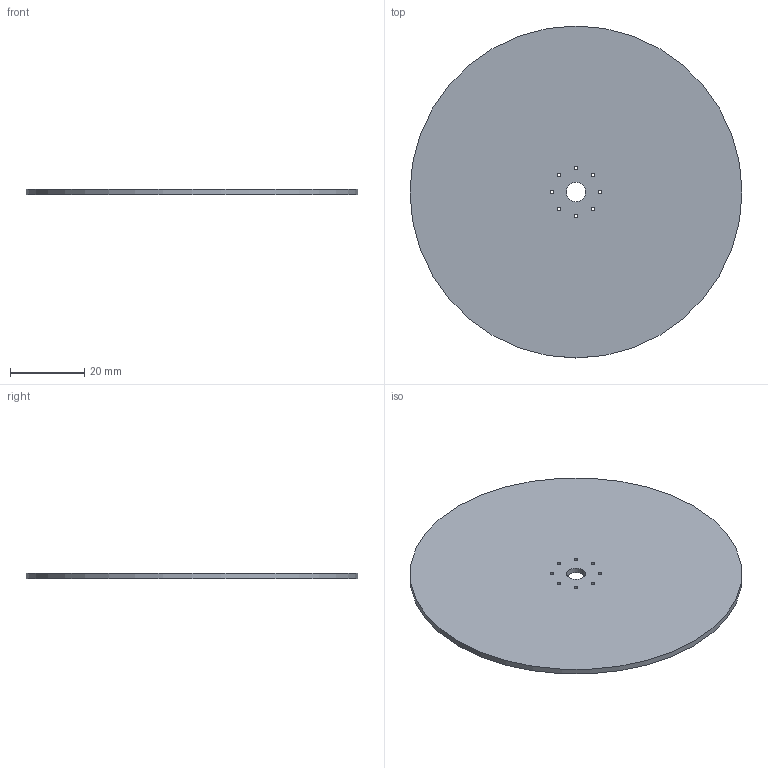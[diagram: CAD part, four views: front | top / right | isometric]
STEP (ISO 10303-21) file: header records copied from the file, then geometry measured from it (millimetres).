
FILE_DESCRIPTION(('KiCad electronic assembly'),'2;1');
FILE_NAME('Slip Ring Rotating Contacts PCB V2 STEP.step', '2026-02-23T04:16:57',('Pcbnew'),('Kicad'), 'Open CASCADE STEP processor 7.9','KiCad to STEP converter','Unknown' );
FILE_SCHEMA(('AUTOMOTIVE_DESIGN { 1 0 10303 214 1 1 1 1 }'));
Length unit declared in the file: millimetre
Products named in the file (2): Slip Ring Rotating Contacts PCB V2 STEP 1; Slip Ring Rotating Contacts V2_PCB
Assembly tree (1 placements, depth 2):
  Slip Ring Rotating Contacts PCB V2 STEP 1
    Slip Ring Rotating Contacts V2_PCB
Bounding box: 89.5 x 89.5 x 1.51 mm (x, y, z)
Volume: 9458.2 mm3; surface area: 13014.6 mm2
Topology: 1 solids, 1 shells, 12 faces, 30 edges, 20 vertices
Faces by surface type: cylinder 10, plane 2
Full cylindrical faces by diameter (mm): 1 x8, 5.2 x1, 89.5 x1
Entity records: 447 total; most frequent: DIRECTION 78, CARTESIAN_POINT 64, ORIENTED_EDGE 60, AXIS2_PLACEMENT_3D 34, FACE_BOUND 30, EDGE_LOOP 30, EDGE_CURVE 30, VERTEX_POINT 20
